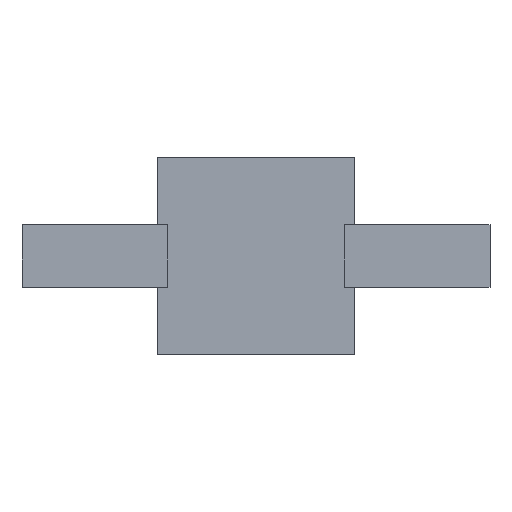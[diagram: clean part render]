
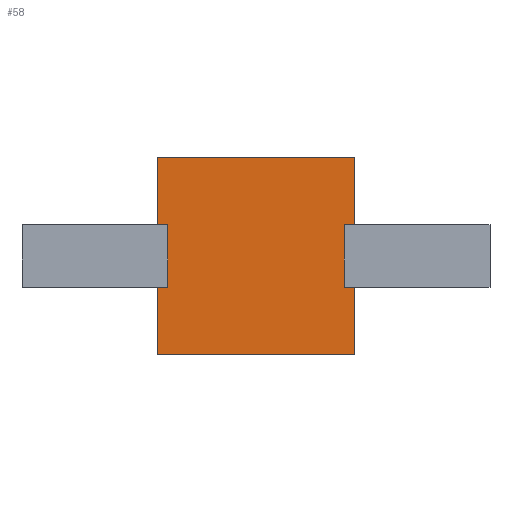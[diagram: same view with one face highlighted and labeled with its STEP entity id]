
A CAD part, top view. The second image highlights one B-rep face of the part: STEP entity #58.
In plain terms, the highlighted planar face has unit normal (0, 0, 1).
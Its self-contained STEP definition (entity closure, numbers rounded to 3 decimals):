
#58=ADVANCED_FACE('',(#220),#222,.T.);
#220=FACE_BOUND('',#221,.T.);
#221=EDGE_LOOP('',(#346,#347,#348,#349,#350,#351,#352,#353,#354,#355,#356,#357));
#222=PLANE('',#223);
#223=AXIS2_PLACEMENT_3D('',#224,#225,#226);
#224=CARTESIAN_POINT('',(0.,0.,1.));
#225=DIRECTION('',(0.,0.,1.));
#226=DIRECTION('',(-1.,0.,0.));
#346=ORIENTED_EDGE('',*,*,#434,.F.);
#347=ORIENTED_EDGE('',*,*,#435,.F.);
#348=ORIENTED_EDGE('',*,*,#436,.F.);
#349=ORIENTED_EDGE('',*,*,#437,.T.);
#350=ORIENTED_EDGE('',*,*,#438,.T.);
#351=ORIENTED_EDGE('',*,*,#439,.T.);
#352=ORIENTED_EDGE('',*,*,#440,.F.);
#353=ORIENTED_EDGE('',*,*,#441,.F.);
#354=ORIENTED_EDGE('',*,*,#442,.F.);
#355=ORIENTED_EDGE('',*,*,#443,.T.);
#356=ORIENTED_EDGE('',*,*,#444,.T.);
#357=ORIENTED_EDGE('',*,*,#445,.T.);
#434=EDGE_CURVE('',#478,#479,#480,.T.);
#435=EDGE_CURVE('',#481,#478,#482,.T.);
#436=EDGE_CURVE('',#483,#481,#484,.T.);
#437=EDGE_CURVE('',#483,#485,#486,.T.);
#438=EDGE_CURVE('',#485,#487,#488,.T.);
#439=EDGE_CURVE('',#487,#489,#490,.T.);
#440=EDGE_CURVE('',#491,#489,#492,.T.);
#441=EDGE_CURVE('',#493,#491,#494,.T.);
#442=EDGE_CURVE('',#495,#493,#496,.T.);
#443=EDGE_CURVE('',#495,#497,#498,.T.);
#444=EDGE_CURVE('',#497,#499,#500,.T.);
#445=EDGE_CURVE('',#499,#479,#501,.T.);
#478=VERTEX_POINT('',#550);
#479=VERTEX_POINT('',#551);
#480=LINE('',#552,#553);
#481=VERTEX_POINT('',#555);
#482=LINE('',#556,#557);
#483=VERTEX_POINT('',#559);
#484=LINE('',#560,#561);
#485=VERTEX_POINT('',#563);
#486=LINE('',#564,#565);
#487=VERTEX_POINT('',#567);
#488=LINE('',#568,#569);
#489=VERTEX_POINT('',#571);
#490=LINE('',#572,#573);
#491=VERTEX_POINT('',#575);
#492=LINE('',#576,#577);
#493=VERTEX_POINT('',#579);
#494=LINE('',#580,#581);
#495=VERTEX_POINT('',#583);
#496=LINE('',#584,#585);
#497=VERTEX_POINT('',#587);
#498=LINE('',#588,#589);
#499=VERTEX_POINT('',#591);
#500=LINE('',#592,#593);
#501=LINE('',#595,#596);
#550=CARTESIAN_POINT('',(4.248,-1.5,1.));
#551=CARTESIAN_POINT('',(4.75,-1.5,1.));
#552=CARTESIAN_POINT('',(4.248,-1.5,1.));
#553=VECTOR('',#554,1.);
#554=DIRECTION('',(1.,0.,0.));
#555=CARTESIAN_POINT('',(4.248,1.5,1.));
#556=CARTESIAN_POINT('',(4.248,1.5,1.));
#557=VECTOR('',#558,1.);
#558=DIRECTION('',(0.,-1.,0.));
#559=CARTESIAN_POINT('',(4.75,1.5,1.));
#560=CARTESIAN_POINT('',(4.75,1.5,1.));
#561=VECTOR('',#562,1.);
#562=DIRECTION('',(-1.,0.,0.));
#563=CARTESIAN_POINT('',(4.75,4.75,1.));
#564=CARTESIAN_POINT('',(4.75,1.5,1.));
#565=VECTOR('',#566,1.);
#566=DIRECTION('',(0.,1.,0.));
#567=CARTESIAN_POINT('',(-4.75,4.75,1.));
#568=CARTESIAN_POINT('',(4.75,4.75,1.));
#569=VECTOR('',#570,1.);
#570=DIRECTION('',(-1.,0.,0.));
#571=CARTESIAN_POINT('',(-4.75,1.5,1.));
#572=CARTESIAN_POINT('',(-4.75,4.75,1.));
#573=VECTOR('',#574,1.);
#574=DIRECTION('',(0.,-1.,0.));
#575=CARTESIAN_POINT('',(-4.248,1.5,1.));
#576=CARTESIAN_POINT('',(-4.248,1.5,1.));
#577=VECTOR('',#578,1.);
#578=DIRECTION('',(-1.,0.,0.));
#579=CARTESIAN_POINT('',(-4.248,-1.5,1.));
#580=CARTESIAN_POINT('',(-4.248,-1.5,1.));
#581=VECTOR('',#582,1.);
#582=DIRECTION('',(0.,1.,0.));
#583=CARTESIAN_POINT('',(-4.75,-1.5,1.));
#584=CARTESIAN_POINT('',(-4.75,-1.5,1.));
#585=VECTOR('',#586,1.);
#586=DIRECTION('',(1.,0.,0.));
#587=CARTESIAN_POINT('',(-4.75,-4.75,1.));
#588=CARTESIAN_POINT('',(-4.75,-1.5,1.));
#589=VECTOR('',#590,1.);
#590=DIRECTION('',(0.,-1.,0.));
#591=CARTESIAN_POINT('',(4.75,-4.75,1.));
#592=CARTESIAN_POINT('',(-4.75,-4.75,1.));
#593=VECTOR('',#594,1.);
#594=DIRECTION('',(1.,0.,0.));
#595=CARTESIAN_POINT('',(4.75,-4.75,1.));
#596=VECTOR('',#597,1.);
#597=DIRECTION('',(0.,1.,0.));
